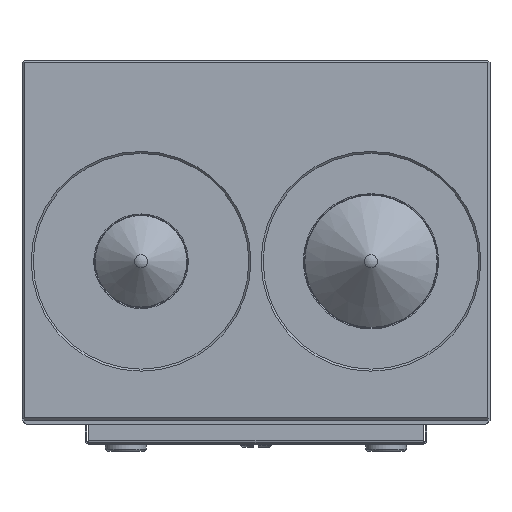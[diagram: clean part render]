
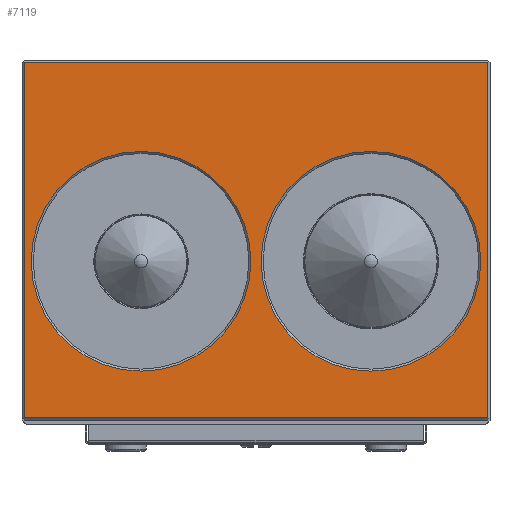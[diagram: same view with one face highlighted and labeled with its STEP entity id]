
A CAD part, front view. The second image highlights one B-rep face of the part: STEP entity #7119.
In plain terms, the highlighted planar face has unit normal (0, -1, 0).
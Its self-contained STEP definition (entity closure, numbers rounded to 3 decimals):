
#238=FACE_BOUND('',#1176,.T.);
#239=FACE_BOUND('',#1177,.T.);
#373=CIRCLE('',#7622,54.);
#374=CIRCLE('',#7623,54.);
#678=FACE_OUTER_BOUND('',#1175,.T.);
#1175=EDGE_LOOP('',(#4809,#4810,#4811,#4812));
#1176=EDGE_LOOP('',(#4813));
#1177=EDGE_LOOP('',(#4814));
#1807=LINE('',#10635,#2475);
#1814=LINE('',#10648,#2482);
#1827=LINE('',#10674,#2495);
#1828=LINE('',#10676,#2496);
#2475=VECTOR('',#8405,174.5);
#2482=VECTOR('',#8414,228.);
#2495=VECTOR('',#8433,174.5);
#2496=VECTOR('',#8436,228.);
#3142=VERTEX_POINT('',#10632);
#3143=VERTEX_POINT('',#10634);
#3148=VERTEX_POINT('',#10646);
#3158=VERTEX_POINT('',#10672);
#3159=VERTEX_POINT('',#10677);
#3160=VERTEX_POINT('',#10679);
#3770=EDGE_CURVE('',#3142,#3143,#1807,.T.);
#3777=EDGE_CURVE('',#3148,#3142,#1814,.T.);
#3790=EDGE_CURVE('',#3158,#3148,#1827,.T.);
#3791=EDGE_CURVE('',#3143,#3158,#1828,.T.);
#3792=EDGE_CURVE('',#3159,#3159,#373,.T.);
#3793=EDGE_CURVE('',#3160,#3160,#374,.T.);
#4809=ORIENTED_EDGE('',*,*,#3790,.F.);
#4810=ORIENTED_EDGE('',*,*,#3791,.F.);
#4811=ORIENTED_EDGE('',*,*,#3770,.F.);
#4812=ORIENTED_EDGE('',*,*,#3777,.F.);
#4813=ORIENTED_EDGE('',*,*,#3792,.T.);
#4814=ORIENTED_EDGE('',*,*,#3793,.T.);
#6797=PLANE('',#7621);
#7119=ADVANCED_FACE('',(#678,#238,#239),#6797,.T.);
#7621=AXIS2_PLACEMENT_3D('',#10675,#8434,#8435);
#7622=AXIS2_PLACEMENT_3D('',#10678,#8437,#8438);
#7623=AXIS2_PLACEMENT_3D('',#10680,#8439,#8440);
#8405=DIRECTION('',(0.,0.,-1.));
#8414=DIRECTION('',(1.,0.,0.));
#8433=DIRECTION('',(0.,0.,1.));
#8434=DIRECTION('center_axis',(0.,-1.,0.));
#8435=DIRECTION('ref_axis',(0.,0.,-1.));
#8436=DIRECTION('',(-1.,0.,0.));
#8437=DIRECTION('center_axis',(0.,1.,0.));
#8438=DIRECTION('ref_axis',(-1.,0.,0.));
#8439=DIRECTION('center_axis',(0.,1.,0.));
#8440=DIRECTION('ref_axis',(-1.,0.,0.));
#10632=CARTESIAN_POINT('',(114.,0.,190.8));
#10634=CARTESIAN_POINT('',(114.,0.,16.3));
#10635=CARTESIAN_POINT('',(114.,0.,147.199));
#10646=CARTESIAN_POINT('',(-114.,0.,190.8));
#10648=CARTESIAN_POINT('',(0.,0.,190.8));
#10672=CARTESIAN_POINT('',(-114.,0.,16.3));
#10674=CARTESIAN_POINT('',(-114.,0.,147.199));
#10675=CARTESIAN_POINT('Origin',(0.,0.,191.8));
#10676=CARTESIAN_POINT('',(0.,0.,16.3));
#10677=CARTESIAN_POINT('',(-110.5,0.,93.3));
#10678=CARTESIAN_POINT('Origin',(-56.5,0.,93.3));
#10679=CARTESIAN_POINT('',(2.5,0.,93.3));
#10680=CARTESIAN_POINT('Origin',(56.5,0.,93.3));
